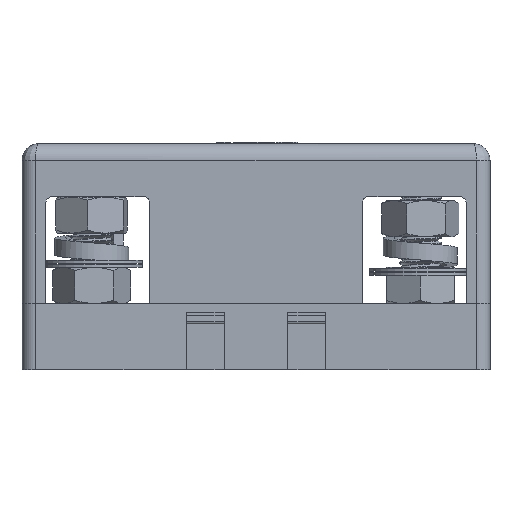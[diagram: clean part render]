
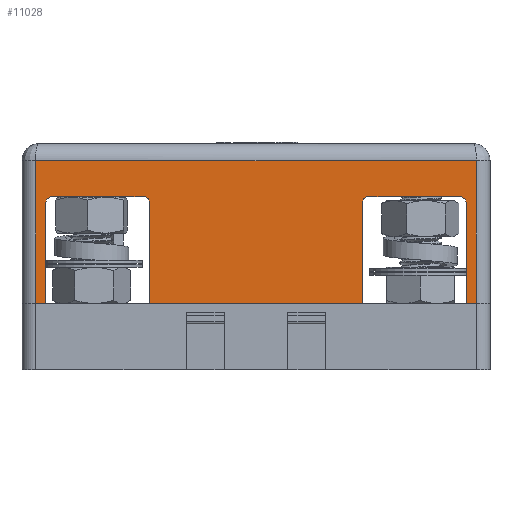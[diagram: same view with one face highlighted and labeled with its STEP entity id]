
A CAD part, front view. The second image highlights one B-rep face of the part: STEP entity #11028.
In plain terms, the highlighted planar face has unit normal (0, -1, 0).
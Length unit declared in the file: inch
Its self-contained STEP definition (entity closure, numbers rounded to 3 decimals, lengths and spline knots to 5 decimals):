
#535=CIRCLE('',#11761,0.05);
#537=CIRCLE('',#11765,0.05);
#539=CIRCLE('',#11770,0.05);
#541=CIRCLE('',#11774,0.05);
#1307=FACE_OUTER_BOUND('',#1955,.T.);
#1955=EDGE_LOOP('',(#9928,#9929,#9930,#9931,#9932,#9933,#9934,#9935,#9936,
#9937,#9938,#9939,#9940,#9941,#9942,#9943));
#3190=LINE('',#26112,#4145);
#3218=LINE('',#26181,#4173);
#3241=LINE('',#26234,#4196);
#3245=LINE('',#26246,#4200);
#3249=LINE('',#26258,#4204);
#3252=LINE('',#26265,#4207);
#3257=LINE('',#26279,#4212);
#3261=LINE('',#26290,#4216);
#3263=LINE('',#26293,#4218);
#3264=LINE('',#26295,#4219);
#3265=LINE('',#26297,#4220);
#3266=LINE('',#26298,#4221);
#4145=VECTOR('',#13756,0.3937);
#4173=VECTOR('',#13814,0.3937);
#4196=VECTOR('',#13863,0.3937);
#4200=VECTOR('',#13875,0.3937);
#4204=VECTOR('',#13887,0.3937);
#4207=VECTOR('',#13892,0.3937);
#4212=VECTOR('',#13905,0.3937);
#4216=VECTOR('',#13917,0.3937);
#4218=VECTOR('',#13921,0.3937);
#4219=VECTOR('',#13922,0.3937);
#4220=VECTOR('',#13923,0.3937);
#4221=VECTOR('',#13924,0.3937);
#5229=VERTEX_POINT('',#26109);
#5230=VERTEX_POINT('',#26111);
#5255=VERTEX_POINT('',#26178);
#5256=VERTEX_POINT('',#26180);
#5273=VERTEX_POINT('',#26233);
#5275=VERTEX_POINT('',#26239);
#5277=VERTEX_POINT('',#26245);
#5279=VERTEX_POINT('',#26251);
#5281=VERTEX_POINT('',#26257);
#5283=VERTEX_POINT('',#26263);
#5284=VERTEX_POINT('',#26264);
#5287=VERTEX_POINT('',#26272);
#5289=VERTEX_POINT('',#26278);
#5291=VERTEX_POINT('',#26284);
#5293=VERTEX_POINT('',#26294);
#5294=VERTEX_POINT('',#26296);
#6769=EDGE_CURVE('',#5230,#5229,#3190,.T.);
#6804=EDGE_CURVE('',#5256,#5255,#3218,.T.);
#6831=EDGE_CURVE('',#5229,#5273,#3241,.T.);
#6834=EDGE_CURVE('',#5273,#5275,#535,.T.);
#6837=EDGE_CURVE('',#5275,#5277,#3245,.T.);
#6840=EDGE_CURVE('',#5277,#5279,#537,.T.);
#6843=EDGE_CURVE('',#5279,#5281,#3249,.T.);
#6846=EDGE_CURVE('',#5283,#5284,#3252,.T.);
#6850=EDGE_CURVE('',#5284,#5287,#539,.T.);
#6853=EDGE_CURVE('',#5287,#5289,#3257,.T.);
#6856=EDGE_CURVE('',#5289,#5291,#541,.T.);
#6859=EDGE_CURVE('',#5291,#5256,#3261,.T.);
#6861=EDGE_CURVE('',#5281,#5283,#3263,.T.);
#6862=EDGE_CURVE('',#5255,#5293,#3264,.T.);
#6863=EDGE_CURVE('',#5294,#5293,#3265,.T.);
#6864=EDGE_CURVE('',#5230,#5294,#3266,.T.);
#9928=ORIENTED_EDGE('',*,*,#6831,.T.);
#9929=ORIENTED_EDGE('',*,*,#6834,.T.);
#9930=ORIENTED_EDGE('',*,*,#6837,.T.);
#9931=ORIENTED_EDGE('',*,*,#6840,.T.);
#9932=ORIENTED_EDGE('',*,*,#6843,.T.);
#9933=ORIENTED_EDGE('',*,*,#6861,.T.);
#9934=ORIENTED_EDGE('',*,*,#6846,.T.);
#9935=ORIENTED_EDGE('',*,*,#6850,.T.);
#9936=ORIENTED_EDGE('',*,*,#6853,.T.);
#9937=ORIENTED_EDGE('',*,*,#6856,.T.);
#9938=ORIENTED_EDGE('',*,*,#6859,.T.);
#9939=ORIENTED_EDGE('',*,*,#6804,.T.);
#9940=ORIENTED_EDGE('',*,*,#6862,.T.);
#9941=ORIENTED_EDGE('',*,*,#6863,.F.);
#9942=ORIENTED_EDGE('',*,*,#6864,.F.);
#9943=ORIENTED_EDGE('',*,*,#6769,.T.);
#10437=PLANE('',#11777);
#11028=ADVANCED_FACE('',(#1307),#10437,.T.);
#11761=AXIS2_PLACEMENT_3D('',#26240,#13868,#13869);
#11765=AXIS2_PLACEMENT_3D('',#26252,#13880,#13881);
#11770=AXIS2_PLACEMENT_3D('',#26273,#13898,#13899);
#11774=AXIS2_PLACEMENT_3D('',#26285,#13910,#13911);
#11777=AXIS2_PLACEMENT_3D('',#26292,#13919,#13920);
#13756=DIRECTION('',(1.,0.,0.));
#13814=DIRECTION('',(1.,0.,0.));
#13863=DIRECTION('',(0.,0.,1.));
#13868=DIRECTION('center_axis',(0.,1.,0.));
#13869=DIRECTION('ref_axis',(1.,0.,0.));
#13875=DIRECTION('',(1.,0.,0.));
#13880=DIRECTION('center_axis',(0.,1.,0.));
#13881=DIRECTION('ref_axis',(0.,0.,-1.));
#13887=DIRECTION('',(0.,0.,-1.));
#13892=DIRECTION('',(0.,0.,1.));
#13898=DIRECTION('center_axis',(0.,1.,0.));
#13899=DIRECTION('ref_axis',(1.,0.,0.));
#13905=DIRECTION('',(1.,0.,0.));
#13910=DIRECTION('center_axis',(0.,1.,0.));
#13911=DIRECTION('ref_axis',(0.,0.,-1.));
#13917=DIRECTION('',(0.,0.,-1.));
#13919=DIRECTION('center_axis',(0.,-1.,0.));
#13920=DIRECTION('ref_axis',(1.,0.,0.));
#13921=DIRECTION('',(1.,0.,0.));
#13922=DIRECTION('',(0.,0.,1.));
#13923=DIRECTION('',(1.,0.,0.));
#13924=DIRECTION('',(0.,0.,1.));
#26109=CARTESIAN_POINT('',(-1.555,-0.61,0.));
#26111=CARTESIAN_POINT('',(-1.63,-0.61,0.));
#26112=CARTESIAN_POINT('',(-1.63,-0.61,0.));
#26178=CARTESIAN_POINT('',(1.63,-0.61,0.));
#26180=CARTESIAN_POINT('',(1.555,-0.61,0.));
#26181=CARTESIAN_POINT('',(-1.63,-0.61,0.));
#26233=CARTESIAN_POINT('',(-1.555,-0.61,0.74));
#26234=CARTESIAN_POINT('',(-1.555,-0.61,0.37));
#26239=CARTESIAN_POINT('',(-1.505,-0.61,0.79));
#26240=CARTESIAN_POINT('Origin',(-1.505,-0.61,0.74));
#26245=CARTESIAN_POINT('',(-0.835,-0.61,0.79));
#26246=CARTESIAN_POINT('',(-1.2325,-0.61,0.79));
#26251=CARTESIAN_POINT('',(-0.785,-0.61,0.74));
#26252=CARTESIAN_POINT('Origin',(-0.835,-0.61,0.74));
#26257=CARTESIAN_POINT('',(-0.785,-0.61,0.));
#26258=CARTESIAN_POINT('',(-0.785,-0.61,0.));
#26263=CARTESIAN_POINT('',(0.785,-0.61,0.));
#26264=CARTESIAN_POINT('',(0.785,-0.61,0.74));
#26265=CARTESIAN_POINT('',(0.785,-0.61,0.37));
#26272=CARTESIAN_POINT('',(0.835,-0.61,0.79));
#26273=CARTESIAN_POINT('Origin',(0.835,-0.61,0.74));
#26278=CARTESIAN_POINT('',(1.505,-0.61,0.79));
#26279=CARTESIAN_POINT('',(-0.0625,-0.61,0.79));
#26284=CARTESIAN_POINT('',(1.555,-0.61,0.74));
#26285=CARTESIAN_POINT('Origin',(1.505,-0.61,0.74));
#26290=CARTESIAN_POINT('',(1.555,-0.61,0.));
#26292=CARTESIAN_POINT('Origin',(-1.63,-0.61,0.));
#26293=CARTESIAN_POINT('',(-1.63,-0.61,0.));
#26294=CARTESIAN_POINT('',(1.63,-0.61,1.0561));
#26295=CARTESIAN_POINT('',(1.63,-0.61,0.));
#26296=CARTESIAN_POINT('',(-1.63,-0.61,1.0561));
#26297=CARTESIAN_POINT('',(-0.815,-0.61,1.0561));
#26298=CARTESIAN_POINT('',(-1.63,-0.61,0.));
